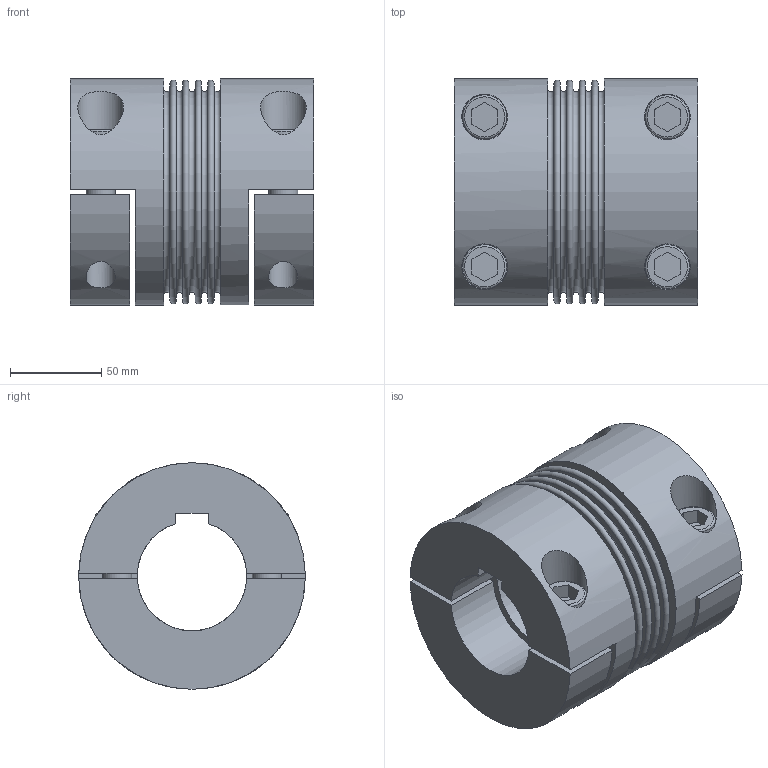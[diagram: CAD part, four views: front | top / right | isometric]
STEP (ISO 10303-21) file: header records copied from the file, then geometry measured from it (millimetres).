
FILE_DESCRIPTION(/* description */ ('STEP AP214'),/* implementation_level */ '2;1');
FILE_NAME(/* name */ 'C:\Diequa Files\DieQua Coupling\BCS\STP\BCS.500.133.#.#.stp',/* time_stamp */ '2018-11-15T09:44:08-06:00',/* author */ ('DiequaCAD'),/* organization */ (''),/* preprocessor_version */ 'ST-DEVELOPER v17.2',/* originating_system */ 'Autodesk Inventor 2019',/* authorisation */ ' ');
FILE_SCHEMA (('AUTOMOTIVE_DESIGN { 1 0 10303 214 3 1 1 }'));
Length unit declared in the file: millimetre
Products named in the file (1): BKH_500_133_60_PFN_60_PFN_31
Bounding box: 133 x 123.98 x 124 mm (x, y, z)
Volume: 927292.8 mm3; surface area: 170474.5 mm2
Topology: 1 solids, 1 shells, 112 faces, 264 edges, 184 vertices
Faces by surface type: plane 74, cylinder 25, torus 13
Full cylindrical faces by diameter (mm): 16 x8, 24 x4, 25 x4, 100 x1, 124 x2
Entity records: 3655 total; most frequent: CARTESIAN_POINT 889, DIRECTION 587, ORIENTED_EDGE 528, EDGE_CURVE 264, AXIS2_PLACEMENT_3D 222, VERTEX_POINT 184, EDGE_LOOP 148, LINE 143
